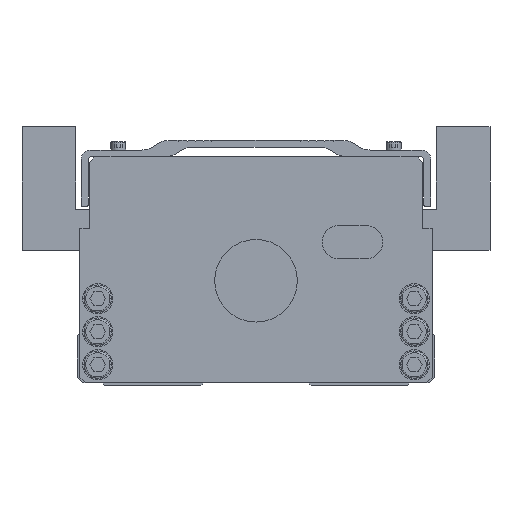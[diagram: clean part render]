
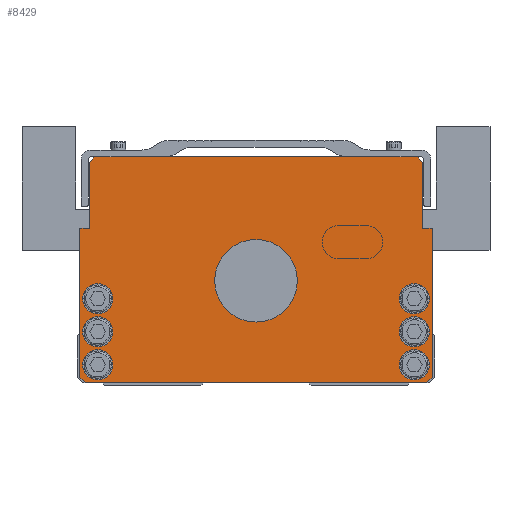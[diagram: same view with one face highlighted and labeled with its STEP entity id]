
A CAD part, front view. The second image highlights one B-rep face of the part: STEP entity #8429.
In plain terms, the highlighted planar face has unit normal (0, -1, 0).
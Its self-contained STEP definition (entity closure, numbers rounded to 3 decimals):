
#8267=EDGE_CURVE('',#16103,#15007,#22092,.T.);
#8429=ADVANCED_FACE('',(#22267,#22268,#22269,#22270,#22271,#22272,#22273,#22274),#22275,.T.);
#8527=EDGE_CURVE('',#18293,#18121,#22383,.T.);
#8595=VERTEX_POINT('',#22461);
#9043=VERTEX_POINT('',#22949);
#9509=EDGE_CURVE('',#10977,#16547,#23465,.T.);
#9621=EDGE_CURVE('',#11251,#10023,#23603,.T.);
#9701=EDGE_CURVE('',#15519,#11113,#23695,.T.);
#10023=VERTEX_POINT('',#24049);
#10043=EDGE_CURVE('',#10087,#18125,#24071,.T.);
#10087=VERTEX_POINT('',#24122);
#10617=VERTEX_POINT('',#24723);
#10877=EDGE_CURVE('',#10617,#11251,#24997,.T.);
#10977=VERTEX_POINT('',#25110);
#11113=VERTEX_POINT('',#25277);
#11181=VERTEX_POINT('',#25352);
#11221=EDGE_CURVE('',#18121,#18293,#25397,.T.);
#11251=VERTEX_POINT('',#25434);
#11739=VERTEX_POINT('',#25978);
#12183=VERTEX_POINT('',#26470);
#12601=EDGE_CURVE('',#16135,#15519,#26940,.T.);
#12735=EDGE_CURVE('',#15961,#18215,#27102,.T.);
#12797=EDGE_CURVE('',#11113,#10977,#27171,.T.);
#12871=EDGE_CURVE('',#16987,#10617,#27252,.T.);
#13889=EDGE_CURVE('',#18125,#10087,#28395,.T.);
#14111=EDGE_CURVE('',#10023,#16103,#28638,.T.);
#14305=EDGE_CURVE('',#16753,#11739,#28855,.T.);
#15007=VERTEX_POINT('',#29632);
#15141=VERTEX_POINT('',#29783);
#15375=VERTEX_POINT('',#30048);
#15519=VERTEX_POINT('',#30205);
#15621=EDGE_CURVE('',#18215,#16987,#30317,.T.);
#15755=EDGE_CURVE('',#15007,#15141,#30465,.T.);
#15961=VERTEX_POINT('',#30693);
#16103=VERTEX_POINT('',#30848);
#16135=VERTEX_POINT('',#30883);
#16527=EDGE_CURVE('',#16547,#15961,#31312,.T.);
#16547=VERTEX_POINT('',#31334);
#16597=VERTEX_POINT('',#31388);
#16753=VERTEX_POINT('',#31558);
#16821=EDGE_CURVE('',#20143,#12183,#31632,.T.);
#16987=VERTEX_POINT('',#31816);
#17549=EDGE_CURVE('',#15375,#11181,#32445,.T.);
#17895=EDGE_CURVE('',#8595,#9043,#32822,.T.);
#17991=VERTEX_POINT('',#32927);
#18011=EDGE_CURVE('',#11739,#16753,#32950,.T.);
#18121=VERTEX_POINT('',#33079);
#18125=VERTEX_POINT('',#33083);
#18215=VERTEX_POINT('',#33181);
#18293=VERTEX_POINT('',#33280);
#18333=EDGE_CURVE('',#17991,#16597,#33330,.T.);
#18561=EDGE_CURVE('',#12183,#20143,#33581,.T.);
#19083=EDGE_CURVE('',#11181,#15375,#34163,.T.);
#19843=EDGE_CURVE('',#16597,#17991,#35006,.T.);
#20055=EDGE_CURVE('',#9043,#8595,#35235,.T.);
#20143=VERTEX_POINT('',#35333);
#20153=EDGE_CURVE('',#15141,#16135,#35344,.T.);
#22092=LINE('',#38009,#38010);
#22267=FACE_BOUND('',#38248,.T.);
#22268=FACE_BOUND('',#38249,.T.);
#22269=FACE_BOUND('',#38250,.T.);
#22270=FACE_BOUND('',#38251,.T.);
#22271=FACE_BOUND('',#38252,.T.);
#22272=FACE_BOUND('',#38253,.T.);
#22273=FACE_BOUND('',#38254,.T.);
#22274=FACE_OUTER_BOUND('',#38255,.T.);
#22275=PLANE('',#38256);
#22383=CIRCLE('',#38403,5.5);
#22461=CARTESIAN_POINT('',(-15.0,0.0,38.0));
#22949=CARTESIAN_POINT('',(15.0,0.0,38.0));
#23465=LINE('',#39917,#39918);
#23603=LINE('',#40108,#40109);
#23695=LINE('',#40229,#40230);
#24049=CARTESIAN_POINT('',(62.0,0.0,1.0));
#24071=CIRCLE('',#40750,5.5);
#24122=CARTESIAN_POINT('',(-52.0,0.0,19.5));
#24723=CARTESIAN_POINT('',(64.0,0.0,57.0));
#24997=LINE('',#42030,#42031);
#25110=CARTESIAN_POINT('',(-33.25,0.0,83.0));
#25277=CARTESIAN_POINT('',(-58.5,0.0,83.0));
#25352=CARTESIAN_POINT('',(63.0,0.0,19.5));
#25397=CIRCLE('',#42562,5.5);
#25434=CARTESIAN_POINT('',(64.0,0.0,3.0));
#25978=CARTESIAN_POINT('',(-52.0,0.0,31.5));
#26470=CARTESIAN_POINT('',(63.0,0.0,7.5));
#26940=LINE('',#44666,#44667);
#27102=LINE('',#44873,#44874);
#27171=LINE('',#44961,#44962);
#27252=LINE('',#45076,#45077);
#28395=CIRCLE('',#46687,5.5);
#28638=LINE('',#47018,#47019);
#28855=CIRCLE('',#47307,5.5);
#29632=CARTESIAN_POINT('',(-64.0,0.0,3.0));
#29783=CARTESIAN_POINT('',(-64.0,0.0,57.0));
#30048=CARTESIAN_POINT('',(52.0,0.0,19.5));
#30205=CARTESIAN_POINT('',(-60.5,0.0,81.0));
#30317=LINE('',#49275,#49276);
#30465=LINE('',#49471,#49472);
#30693=CARTESIAN_POINT('',(58.5,0.0,83.0));
#30848=CARTESIAN_POINT('',(-62.0,0.0,1.0));
#30883=CARTESIAN_POINT('',(-60.5,0.0,57.0));
#31312=LINE('',#50646,#50647);
#31334=CARTESIAN_POINT('',(33.25,0.0,83.0));
#31388=CARTESIAN_POINT('',(-63.0,0.0,7.5));
#31558=CARTESIAN_POINT('',(-63.0,0.0,31.5));
#31632=CIRCLE('',#51089,5.5);
#31816=CARTESIAN_POINT('',(60.5,0.0,57.0));
#32445=CIRCLE('',#52209,5.5);
#32822=CIRCLE('',#52737,15.0);
#32927=CARTESIAN_POINT('',(-52.0,0.0,7.5));
#32950=CIRCLE('',#52925,5.5);
#33079=CARTESIAN_POINT('',(63.0,0.0,31.5));
#33083=CARTESIAN_POINT('',(-63.0,0.0,19.5));
#33181=CARTESIAN_POINT('',(60.5,0.0,81.0));
#33280=CARTESIAN_POINT('',(52.0,0.0,31.5));
#33330=CIRCLE('',#53435,5.5);
#33581=CIRCLE('',#53786,5.5);
#34163=CIRCLE('',#54584,5.5);
#35006=CIRCLE('',#55727,5.5);
#35235=CIRCLE('',#56038,15.0);
#35333=CARTESIAN_POINT('',(52.0,0.0,7.5));
#35344=LINE('',#56186,#56187);
#38009=CARTESIAN_POINT('',(-64.0,0.0,3.0));
#38010=VECTOR('',#58621,1.);
#38248=EDGE_LOOP('',(#58794,#58795));
#38249=EDGE_LOOP('',(#58796,#58797));
#38250=EDGE_LOOP('',(#58798,#58799));
#38251=EDGE_LOOP('',(#58800,#58801));
#38252=EDGE_LOOP('',(#58802,#58803));
#38253=EDGE_LOOP('',(#58804,#58805));
#38254=EDGE_LOOP('',(#58806,#58807));
#38255=EDGE_LOOP('',(#58808,#58809,#58810,#58811,#58812,#58813,#58814,#58815,#58816,#58817,#58818,#58819,#58820,#58821));
#38256=AXIS2_PLACEMENT_3D('',#58822,#58823,#58824);
#38403=AXIS2_PLACEMENT_3D('',#58933,#58934,#58935);
#39917=CARTESIAN_POINT('',(58.5,0.0,83.0));
#39918=VECTOR('',#60175,1.0);
#40108=CARTESIAN_POINT('',(62.0,0.0,1.0));
#40109=VECTOR('',#60385,1.);
#40229=CARTESIAN_POINT('',(-58.5,0.0,83.0));
#40230=VECTOR('',#60508,1.);
#40750=AXIS2_PLACEMENT_3D('',#60909,#60910,#60911);
#42030=CARTESIAN_POINT('',(64.0,0.0,3.0));
#42031=VECTOR('',#61920,1.0);
#42562=AXIS2_PLACEMENT_3D('',#62422,#62423,#62424);
#44666=CARTESIAN_POINT('',(-60.5,0.0,81.0));
#44667=VECTOR('',#64234,1.0);
#44873=CARTESIAN_POINT('',(60.5,0.0,81.0));
#44874=VECTOR('',#64472,1.);
#44961=CARTESIAN_POINT('',(58.5,0.0,83.0));
#44962=VECTOR('',#64542,1.0);
#45076=CARTESIAN_POINT('',(64.0,0.0,57.0));
#45077=VECTOR('',#64641,1.0);
#46687=AXIS2_PLACEMENT_3D('',#66054,#66055,#66056);
#47018=CARTESIAN_POINT('',(-62.0,0.0,1.0));
#47019=VECTOR('',#66328,1.0);
#47307=AXIS2_PLACEMENT_3D('',#66580,#66581,#66582);
#49275=CARTESIAN_POINT('',(60.5,0.0,57.0));
#49276=VECTOR('',#68207,1.0);
#49471=CARTESIAN_POINT('',(-64.0,0.0,57.0));
#49472=VECTOR('',#68373,1.0);
#50646=CARTESIAN_POINT('',(58.5,0.0,83.0));
#50647=VECTOR('',#69309,1.0);
#51089=AXIS2_PLACEMENT_3D('',#69655,#69656,#69657);
#52209=AXIS2_PLACEMENT_3D('',#70529,#70530,#70531);
#52737=AXIS2_PLACEMENT_3D('',#70960,#70961,#70962);
#52925=AXIS2_PLACEMENT_3D('',#71091,#71092,#71093);
#53435=AXIS2_PLACEMENT_3D('',#71581,#71582,#71583);
#53786=AXIS2_PLACEMENT_3D('',#71850,#71851,#71852);
#54584=AXIS2_PLACEMENT_3D('',#72554,#72555,#72556);
#55727=AXIS2_PLACEMENT_3D('',#73490,#73491,#73492);
#56038=AXIS2_PLACEMENT_3D('',#73706,#73707,#73708);
#56186=CARTESIAN_POINT('',(-60.5,0.0,57.0));
#56187=VECTOR('',#73832,1.0);
#58621=DIRECTION('',(-0.707,0.0,0.707));
#58794=ORIENTED_EDGE('',*,*,#20055,.T.);
#58795=ORIENTED_EDGE('',*,*,#17895,.T.);
#58796=ORIENTED_EDGE('',*,*,#11221,.T.);
#58797=ORIENTED_EDGE('',*,*,#8527,.T.);
#58798=ORIENTED_EDGE('',*,*,#19083,.T.);
#58799=ORIENTED_EDGE('',*,*,#17549,.T.);
#58800=ORIENTED_EDGE('',*,*,#18561,.T.);
#58801=ORIENTED_EDGE('',*,*,#16821,.T.);
#58802=ORIENTED_EDGE('',*,*,#18011,.T.);
#58803=ORIENTED_EDGE('',*,*,#14305,.T.);
#58804=ORIENTED_EDGE('',*,*,#10043,.T.);
#58805=ORIENTED_EDGE('',*,*,#13889,.T.);
#58806=ORIENTED_EDGE('',*,*,#18333,.T.);
#58807=ORIENTED_EDGE('',*,*,#19843,.T.);
#58808=ORIENTED_EDGE('',*,*,#8267,.F.);
#58809=ORIENTED_EDGE('',*,*,#14111,.F.);
#58810=ORIENTED_EDGE('',*,*,#9621,.F.);
#58811=ORIENTED_EDGE('',*,*,#10877,.F.);
#58812=ORIENTED_EDGE('',*,*,#12871,.F.);
#58813=ORIENTED_EDGE('',*,*,#15621,.F.);
#58814=ORIENTED_EDGE('',*,*,#12735,.F.);
#58815=ORIENTED_EDGE('',*,*,#16527,.F.);
#58816=ORIENTED_EDGE('',*,*,#9509,.F.);
#58817=ORIENTED_EDGE('',*,*,#12797,.F.);
#58818=ORIENTED_EDGE('',*,*,#9701,.F.);
#58819=ORIENTED_EDGE('',*,*,#12601,.F.);
#58820=ORIENTED_EDGE('',*,*,#20153,.F.);
#58821=ORIENTED_EDGE('',*,*,#15755,.F.);
#58822=CARTESIAN_POINT('',(0.,0.0,41.562));
#58823=DIRECTION('',(0.0,-1.0,0.0));
#58824=DIRECTION('',(1.0,0.0,0.0));
#58933=CARTESIAN_POINT('',(57.5,0.0,31.5));
#58934=DIRECTION('',(-0.0,1.0,0.0));
#58935=DIRECTION('',(1.0,0.0,0.0));
#60175=DIRECTION('',(1.0,0.0,0.0));
#60385=DIRECTION('',(-0.707,0.0,-0.707));
#60508=DIRECTION('',(0.707,0.0,0.707));
#60909=CARTESIAN_POINT('',(-57.5,0.0,19.5));
#60910=DIRECTION('',(-0.0,1.0,0.0));
#60911=DIRECTION('',(1.0,0.0,0.0));
#61920=DIRECTION('',(-0.0,0.0,-1.0));
#62422=CARTESIAN_POINT('',(57.5,0.0,31.5));
#62423=DIRECTION('',(-0.0,1.0,0.0));
#62424=DIRECTION('',(1.0,0.0,0.0));
#64234=DIRECTION('',(0.0,0.0,1.0));
#64472=DIRECTION('',(0.707,0.0,-0.707));
#64542=DIRECTION('',(1.0,0.0,0.0));
#64641=DIRECTION('',(1.0,0.0,0.0));
#66054=CARTESIAN_POINT('',(-57.5,0.0,19.5));
#66055=DIRECTION('',(-0.0,1.0,0.0));
#66056=DIRECTION('',(1.0,0.0,0.0));
#66328=DIRECTION('',(-1.0,0.0,-0.0));
#66580=CARTESIAN_POINT('',(-57.5,0.0,31.5));
#66581=DIRECTION('',(-0.0,1.0,0.0));
#66582=DIRECTION('',(1.0,0.0,0.0));
#68207=DIRECTION('',(-0.0,0.0,-1.0));
#68373=DIRECTION('',(0.0,0.0,1.0));
#69309=DIRECTION('',(1.0,0.0,0.0));
#69655=CARTESIAN_POINT('',(57.5,0.0,7.5));
#69656=DIRECTION('',(-0.0,1.0,0.0));
#69657=DIRECTION('',(1.0,0.0,0.0));
#70529=CARTESIAN_POINT('',(57.5,0.0,19.5));
#70530=DIRECTION('',(-0.0,1.0,0.0));
#70531=DIRECTION('',(1.0,0.0,0.0));
#70960=CARTESIAN_POINT('',(0.0,0.0,38.0));
#70961=DIRECTION('',(-0.0,1.0,0.0));
#70962=DIRECTION('',(1.0,0.0,0.0));
#71091=CARTESIAN_POINT('',(-57.5,0.0,31.5));
#71092=DIRECTION('',(-0.0,1.0,0.0));
#71093=DIRECTION('',(1.0,0.0,0.0));
#71581=CARTESIAN_POINT('',(-57.5,0.0,7.5));
#71582=DIRECTION('',(-0.0,1.0,0.0));
#71583=DIRECTION('',(1.0,0.0,0.0));
#71850=CARTESIAN_POINT('',(57.5,0.0,7.5));
#71851=DIRECTION('',(-0.0,1.0,0.0));
#71852=DIRECTION('',(1.0,0.0,0.0));
#72554=CARTESIAN_POINT('',(57.5,0.0,19.5));
#72555=DIRECTION('',(-0.0,1.0,0.0));
#72556=DIRECTION('',(1.0,0.0,0.0));
#73490=CARTESIAN_POINT('',(-57.5,0.0,7.5));
#73491=DIRECTION('',(-0.0,1.0,0.0));
#73492=DIRECTION('',(1.0,0.0,0.0));
#73706=CARTESIAN_POINT('',(0.0,0.0,38.0));
#73707=DIRECTION('',(-0.0,1.0,0.0));
#73708=DIRECTION('',(1.0,0.0,0.0));
#73832=DIRECTION('',(1.0,0.0,0.0));
